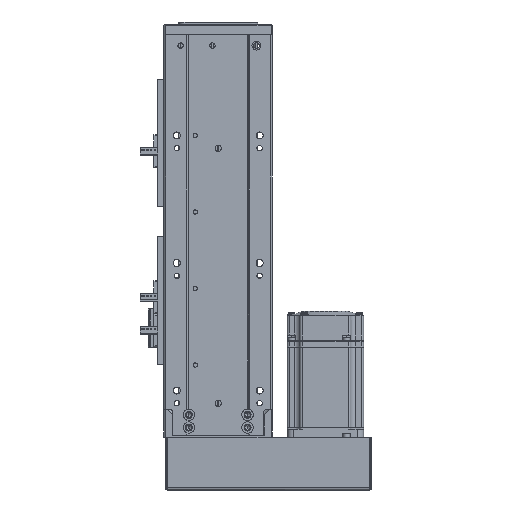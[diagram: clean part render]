
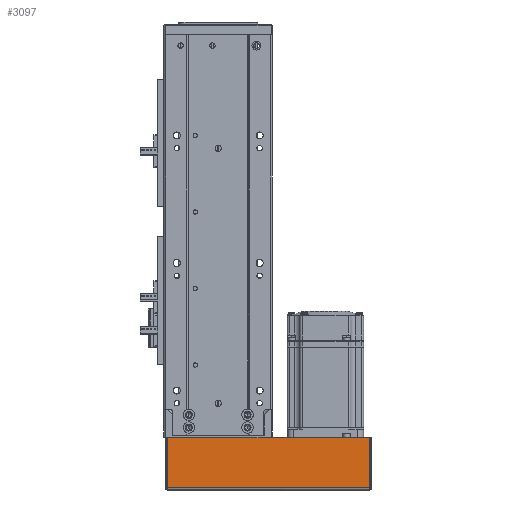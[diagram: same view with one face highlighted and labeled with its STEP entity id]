
A CAD part, front view. The second image highlights one B-rep face of the part: STEP entity #3097.
In plain terms, the highlighted planar face has unit normal (0, -1, 0).
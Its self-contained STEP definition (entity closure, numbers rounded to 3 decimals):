
#3097 = ADVANCED_FACE ( 'NONE', ( #15029 ), #20628, .F. ) ;
#9607 = VERTEX_POINT ( 'NONE', #59262 ) ;
#9650 = VERTEX_POINT ( 'NONE', #59289 ) ;
#9666 = VERTEX_POINT ( 'NONE', #59288 ) ;
#9676 = VERTEX_POINT ( 'NONE', #59282 ) ;
#14199 = CARTESIAN_POINT ( 'NONE',  ( -81.1, -30., 0.737 ) ) ;
#14203 = DIRECTION ( 'NONE',  ( -1., 0., 0. ) ) ;
#14247 = CARTESIAN_POINT ( 'NONE',  ( -79.393, -30., 0. ) ) ;
#14287 = DIRECTION ( 'NONE',  ( 0., 0., 1. ) ) ;
#14290 = CARTESIAN_POINT ( 'NONE',  ( -81.1, -30., 40. ) ) ;
#14294 = DIRECTION ( 'NONE',  ( 1., 0., 0. ) ) ;
#14433 = CARTESIAN_POINT ( 'NONE',  ( 79.393, -30., 0. ) ) ;
#14449 = DIRECTION ( 'NONE',  ( 0., 0., 1. ) ) ;
#15029 = FACE_OUTER_BOUND ( 'NONE', #61658, .T. ) ;
#18736 = EDGE_CURVE ( 'NONE', #9666, #9650, #46828, .T. ) ;
#18756 = EDGE_CURVE ( 'NONE', #9650, #9607, #46942, .T. ) ;
#18764 = EDGE_CURVE ( 'NONE', #9607, #9676, #46992, .T. ) ;
#18799 = EDGE_CURVE ( 'NONE', #9666, #9676, #47048, .T. ) ;
#20568 = DIRECTION ( 'NONE',  ( 0., 0., 1. ) ) ;
#20577 = CARTESIAN_POINT ( 'NONE',  ( 0., -30., 0. ) ) ;
#20586 = DIRECTION ( 'NONE',  ( 0., 1., 0. ) ) ;
#20628 = PLANE ( 'NONE',  #50062 ) ;
#39588 = ORIENTED_EDGE ( 'NONE', *, *, #18736, .F. ) ;
#39596 = ORIENTED_EDGE ( 'NONE', *, *, #18756, .F. ) ;
#39678 = ORIENTED_EDGE ( 'NONE', *, *, #18764, .F. ) ;
#39681 = ORIENTED_EDGE ( 'NONE', *, *, #18799, .T. ) ;
#46828 = LINE ( 'NONE', #14199, #46862 ) ;
#46862 = VECTOR ( 'NONE', #14203, 1000. ) ;
#46904 = VECTOR ( 'NONE', #14287, 1000. ) ;
#46920 = VECTOR ( 'NONE', #14294, 1000. ) ;
#46942 = LINE ( 'NONE', #14247, #46904 ) ;
#46992 = LINE ( 'NONE', #14290, #46920 ) ;
#47048 = LINE ( 'NONE', #14433, #47058 ) ;
#47058 = VECTOR ( 'NONE', #14449, 1000. ) ;
#50062 = AXIS2_PLACEMENT_3D ( 'NONE', #20577, #20586, #20568 ) ;
#59262 = CARTESIAN_POINT ( 'NONE',  ( -79.393, -30., 40. ) ) ;
#59282 = CARTESIAN_POINT ( 'NONE',  ( 79.393, -30., 40. ) ) ;
#59288 = CARTESIAN_POINT ( 'NONE',  ( 79.393, -30., 0.737 ) ) ;
#59289 = CARTESIAN_POINT ( 'NONE',  ( -79.393, -30., 0.737 ) ) ;
#61658 = EDGE_LOOP ( 'NONE', ( #39588, #39681, #39678, #39596 ) ) ;
